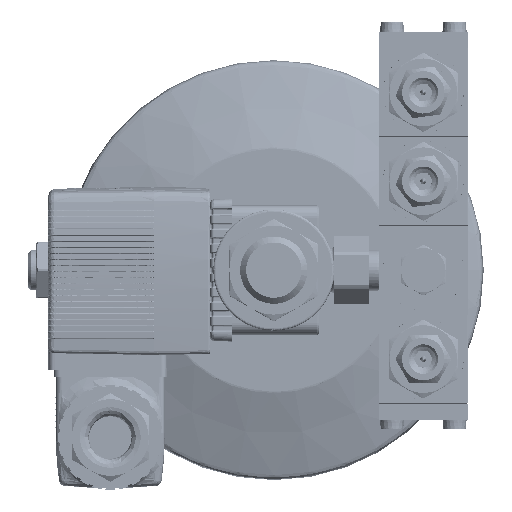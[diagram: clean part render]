
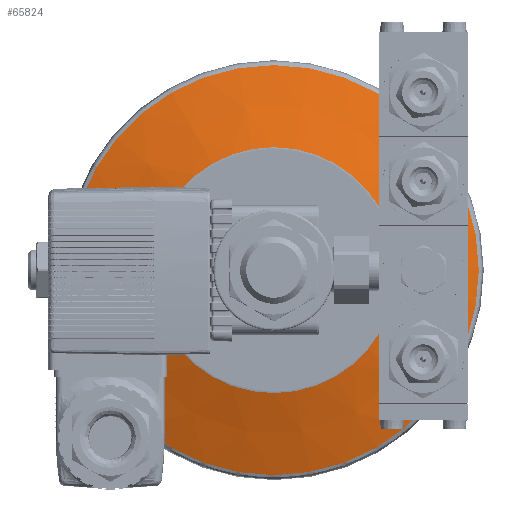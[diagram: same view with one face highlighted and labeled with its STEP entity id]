
A CAD part, left-side view. The second image highlights one B-rep face of the part: STEP entity #65824.
In plain terms, the highlighted conical face has half-angle 72.91 degrees and reference radius 50.726 mm.
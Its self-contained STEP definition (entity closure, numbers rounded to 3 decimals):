
#7365 = EDGE_LOOP ( 'NONE', ( #264810 ) ) ;
#22272 = CARTESIAN_POINT ( 'NONE',  ( 73.464, -30.426, 0. ) ) ;
#41954 = VERTEX_POINT ( 'NONE', #22272 ) ;
#54771 = FACE_OUTER_BOUND ( 'NONE', #301485, .T. ) ;
#65824 = ADVANCED_FACE ( 'NONE', ( #184674, #54771 ), #89069, .T. ) ;
#65851 = DIRECTION ( 'NONE',  ( 1., 0., 0. ) ) ;
#76368 = EDGE_CURVE ( 'NONE', #280017, #280017, #257884, .T. ) ;
#77601 = DIRECTION ( 'NONE',  ( 0., 0., -1. ) ) ;
#84947 = CARTESIAN_POINT ( 'NONE',  ( 73.464, 0., 0. ) ) ;
#89069 = CONICAL_SURFACE ( 'NONE', #317898, 50.726, 1.273 ) ;
#109698 = CARTESIAN_POINT ( 'NONE',  ( 79.705, 0., 0. ) ) ;
#112900 = DIRECTION ( 'NONE',  ( 1., 0., 0. ) ) ;
#139573 = CIRCLE ( 'NONE', #305800, 30.426 ) ;
#168507 = CARTESIAN_POINT ( 'NONE',  ( 79.705, 0., 0. ) ) ;
#174644 = AXIS2_PLACEMENT_3D ( 'NONE', #168507, #65851, #215754 ) ;
#176117 = EDGE_CURVE ( 'NONE', #41954, #41954, #139573, .T. ) ;
#184674 = FACE_BOUND ( 'NONE', #7365, .T. ) ;
#206730 = CARTESIAN_POINT ( 'NONE',  ( 79.705, 50.726, 0. ) ) ;
#215754 = DIRECTION ( 'NONE',  ( 0., 1., 0. ) ) ;
#257884 = CIRCLE ( 'NONE', #174644, 50.726 ) ;
#264088 = DIRECTION ( 'NONE',  ( 0., -1., 0. ) ) ;
#264810 = ORIENTED_EDGE ( 'NONE', *, *, #176117, .T. ) ;
#280017 = VERTEX_POINT ( 'NONE', #206730 ) ;
#286903 = DIRECTION ( 'NONE',  ( 1., 0., 0. ) ) ;
#301485 = EDGE_LOOP ( 'NONE', ( #312399 ) ) ;
#305800 = AXIS2_PLACEMENT_3D ( 'NONE', #84947, #286903, #264088 ) ;
#312399 = ORIENTED_EDGE ( 'NONE', *, *, #76368, .F. ) ;
#317898 = AXIS2_PLACEMENT_3D ( 'NONE', #109698, #112900, #77601 ) ;
